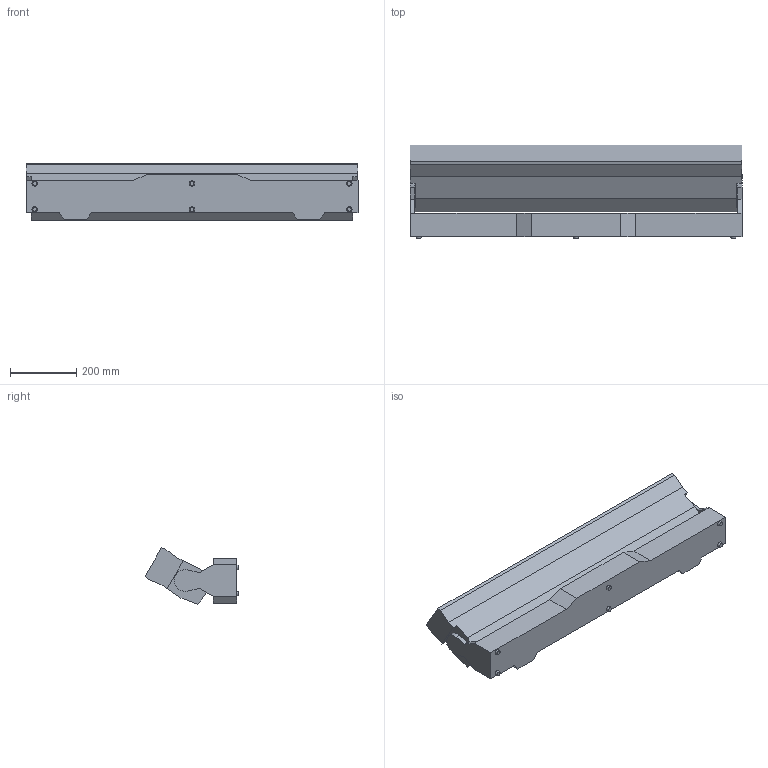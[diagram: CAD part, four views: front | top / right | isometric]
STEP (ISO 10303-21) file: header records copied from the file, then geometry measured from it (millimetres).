
FILE_DESCRIPTION(/* description */ (''),/* implementation_level */ '2;1');
FILE_NAME(/* name */ 'C:\Users\dgooch\Documents\CADENG\PRO\COLORado PXL 16\30\COLORado PXL 16_30.stp',/* time_stamp */ '2022-01-27T13:42:37-05:00',/* author */ ('dgooch'),/* organization */ (''),/* preprocessor_version */ 'ST-DEVELOPER v18.1',/* originating_system */ 'Autodesk Inventor 2022',/* authorisation */ '');
FILE_SCHEMA (('AUTOMOTIVE_DESIGN { 1 0 10303 214 3 1 1 }'));
Length unit declared in the file: millimetre
Products named in the file (3): COLORado PXL 16_30; Base; Head
Assembly tree (2 placements, depth 2):
  COLORado PXL 16_30
    Base
    Head
Bounding box: 1000 x 282.9 x 169.71 mm (x, y, z)
Volume: 25178801.9 mm3; surface area: 980891 mm2
Topology: 2 solids, 2 shells, 58 faces, 144 edges, 96 vertices
Faces by surface type: plane 49, cone 6, cylinder 3
Entity records: 1831 total; most frequent: CARTESIAN_POINT 303, ORIENTED_EDGE 288, DIRECTION 288, EDGE_CURVE 144, LINE 126, VECTOR 126, VERTEX_POINT 96, AXIS2_PLACEMENT_3D 81
